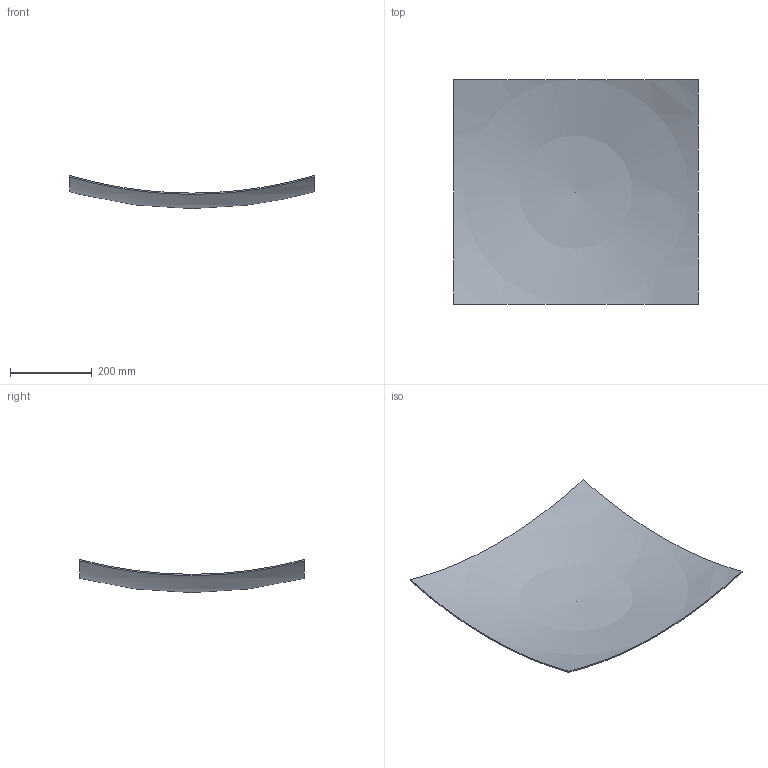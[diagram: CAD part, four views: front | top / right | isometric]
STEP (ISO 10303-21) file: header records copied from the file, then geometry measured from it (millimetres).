
FILE_DESCRIPTION( ( 'Unknown' ), '1' );
FILE_NAME( 'C:/Users/Lee/Documents/HGC Work/Solid Edge/heavy_gas_cherenkov_v5/par/detector/mirror_alone.stp', 'Unknown', ( 'Unknown' ), ( 'Unknown' ), 'PSStep 13.0', 'Unknown', ' ' );
FILE_SCHEMA( ( 'AUTOMOTIVE_DESIGN { 1 0 10303 214 1 1 1 1 }' ) );
Length unit declared in the file: millimetre
Products named in the file (1): 1
Bounding box: 600 x 550 x 81.05 mm (x, y, z)
Volume: 1013675.6 mm3; surface area: 683022 mm2
Topology: 1 solids, 1 shells, 6 faces, 18 edges, 12 vertices
Faces by surface type: plane 4, sphere 2
Entity records: 228 total; most frequent: DIRECTION 34, CARTESIAN_POINT 27, ORIENTED_EDGE 24, AXIS2_PLACEMENT_3D 15, EDGE_CURVE 12, VERTEX_POINT 8, CIRCLE 8, STYLED_ITEM 6
